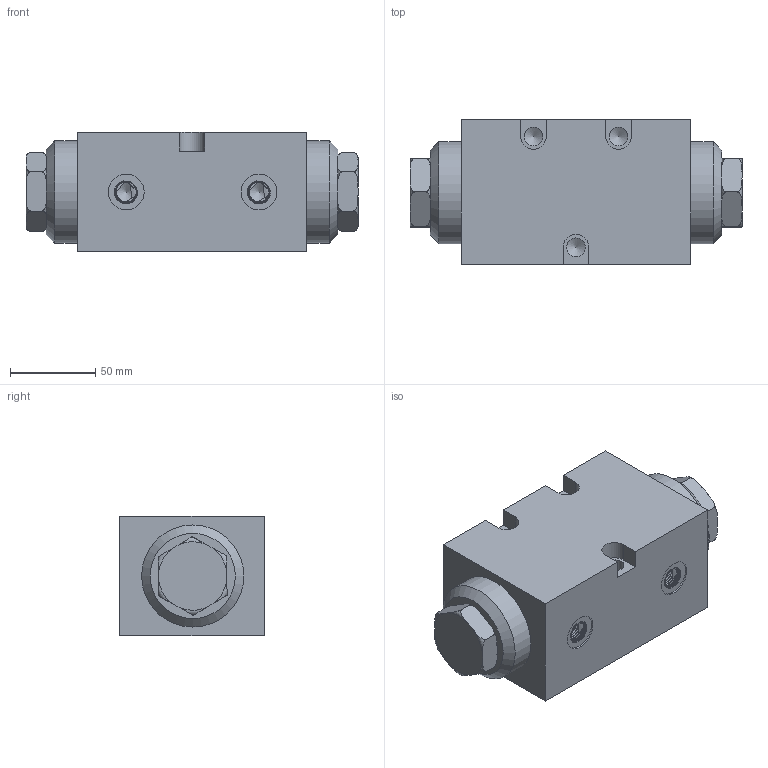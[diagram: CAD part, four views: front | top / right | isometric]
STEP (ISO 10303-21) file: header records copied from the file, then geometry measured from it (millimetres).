
FILE_DESCRIPTION(/* description */ (''),/* implementation_level */ '2;1');
FILE_NAME(/* name */ '16-1.prt.stp',/* time_stamp */ '2023-05-03T14:34:43+08:00',/* author */ (''),/* organization */ (''),/* preprocessor_version */ 'ST-DEVELOPER v16.7',/* originating_system */ 'SIEMENS PLM Software NX 12.0',/* authorisation */ '');
FILE_SCHEMA (('AUTOMOTIVE_DESIGN { 1 0 10303 214 3 1 1 1 }'));
Length unit declared in the file: millimetre
Products named in the file (1): 16-1
Bounding box: 195 x 85 x 70 mm (x, y, z)
Volume: 900997.9 mm3; surface area: 78728.2 mm2
Topology: 3 solids, 3 shells, 97 faces, 258 edges, 172 vertices
Faces by surface type: plane 39, torus 24, cylinder 17, bspline 9, cone 8
Full cylindrical faces by diameter (mm): 11 x3, 21 x2, 23 x1, 60 x2
Entity records: 15748 total; most frequent: CARTESIAN_POINT 13574, ORIENTED_EDGE 456, DIRECTION 378, EDGE_CURVE 228, VERTEX_POINT 164, AXIS2_PLACEMENT_3D 146, EDGE_LOOP 118, ADVANCED_FACE 97
